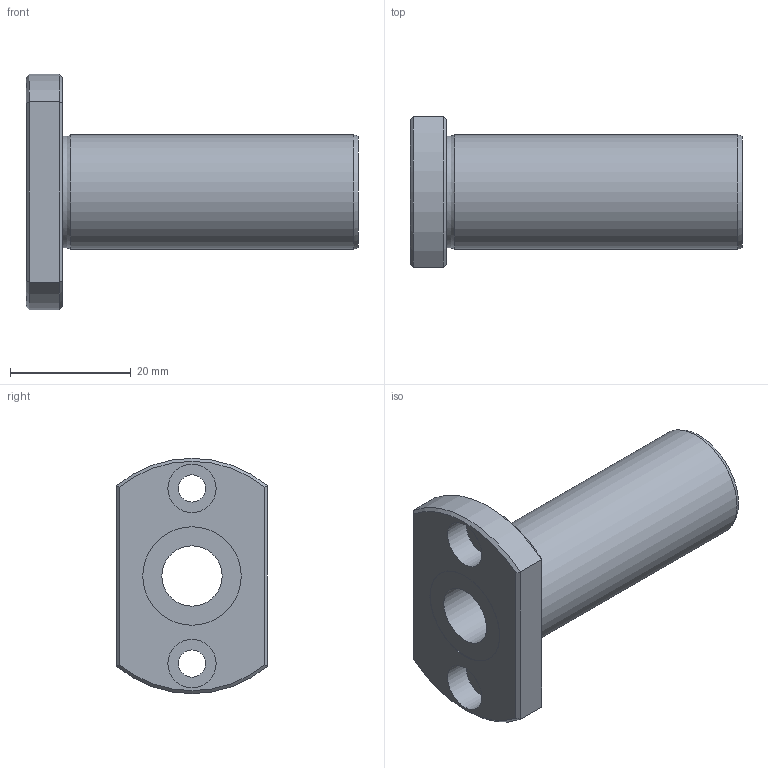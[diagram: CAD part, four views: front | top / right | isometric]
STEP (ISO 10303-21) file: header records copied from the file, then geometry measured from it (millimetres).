
FILE_DESCRIPTION((''),'2;1');
FILE_NAME('D:\製品 (図面)\カタログ用3D\リニアベアリング関連\STEP形式\LFDT\LFDT10.stp','2010-06-03T09:43:54',('Tsuchiya'),(''),'Autodesk Inventor 10','Autodesk Inventor 10','');
FILE_SCHEMA(('AUTOMOTIVE_DESIGN { 1 0 10303 214 1 1 1 1 }'));
Length unit declared in the file: millimetre
Products named in the file (1): LFDT10
Bounding box: 55 x 25 x 39 mm (x, y, z)
Volume: 14427.3 mm3; surface area: 7122.9 mm2
Topology: 1 solids, 1 shells, 29 faces, 56 edges, 34 vertices
Faces by surface type: plane 13, cylinder 10, cone 4, torus 1, bspline 1
Full cylindrical faces by diameter (mm): 4.5 x2, 8 x2, 10 x1, 16.3 x2, 19 x1
Entity records: 787 total; most frequent: CARTESIAN_POINT 196, DIRECTION 122, ORIENTED_EDGE 92, AXIS2_PLACEMENT_3D 55, EDGE_LOOP 50, EDGE_CURVE 46, VERTEX_POINT 34, FACE_OUTER_BOUND 29
